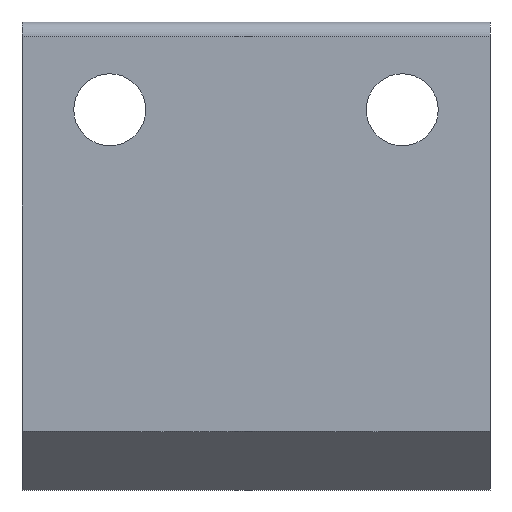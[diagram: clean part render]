
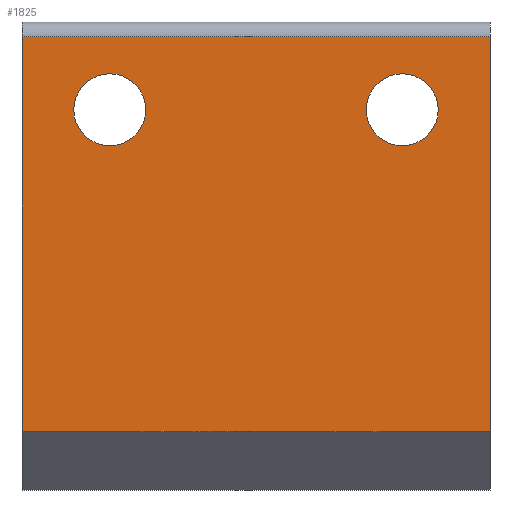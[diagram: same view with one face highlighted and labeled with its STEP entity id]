
A CAD part, front view. The second image highlights one B-rep face of the part: STEP entity #1825.
In plain terms, the highlighted planar face has unit normal (0, -1, 0).
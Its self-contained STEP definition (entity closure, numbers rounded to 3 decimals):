
#1342=CARTESIAN_POINT('',(16.0,-6.,9.5));
#1343=VERTEX_POINT('',#1342);
#1361=CARTESIAN_POINT('',(0.0,-6.,9.5));
#1362=VERTEX_POINT('',#1361);
#1370=CARTESIAN_POINT('',(0.0,-6.,9.5));
#1371=DIRECTION('',(1.0,0.0,0.0));
#1372=VECTOR('',#1371,16.0);
#1373=LINE('',#1370,#1372);
#1374=EDGE_CURVE('',#1362,#1343,#1373,.T.);
#1426=CARTESIAN_POINT('',(0.0,-6.,-4.));
#1427=VERTEX_POINT('',#1426);
#1434=CARTESIAN_POINT('',(0.0,-6.,9.5));
#1435=DIRECTION('',(0.0,0.0,-1.0));
#1436=VECTOR('',#1435,13.5);
#1437=LINE('',#1434,#1436);
#1438=EDGE_CURVE('',#1362,#1427,#1437,.T.);
#1502=CARTESIAN_POINT('',(16.0,-6.,-4.));
#1503=VERTEX_POINT('',#1502);
#1510=CARTESIAN_POINT('',(16.0,-6.,-4.));
#1511=DIRECTION('',(-1.0,0.0,0.0));
#1512=VECTOR('',#1511,16.0);
#1513=LINE('',#1510,#1512);
#1514=EDGE_CURVE('',#1503,#1427,#1513,.T.);
#1649=CARTESIAN_POINT('',(14.23,-6.,7.));
#1650=VERTEX_POINT('',#1649);
#1651=CARTESIAN_POINT('',(13.,-6.,7.));
#1652=DIRECTION('',(0.0,1.0,0.0));
#1653=DIRECTION('',(-1.0,0.0,0.0));
#1654=AXIS2_PLACEMENT_3D('',#1651,#1652,#1653);
#1655=CIRCLE('',#1654,1.23);
#1656=EDGE_CURVE('',#1650,#1650,#1655,.T.);
#1739=CARTESIAN_POINT('',(4.23,-6.,7.));
#1740=VERTEX_POINT('',#1739);
#1741=CARTESIAN_POINT('',(3.,-6.,7.));
#1742=DIRECTION('',(0.0,1.0,0.0));
#1743=DIRECTION('',(-1.0,0.0,0.0));
#1744=AXIS2_PLACEMENT_3D('',#1741,#1742,#1743);
#1745=CIRCLE('',#1744,1.23);
#1746=EDGE_CURVE('',#1740,#1740,#1745,.T.);
#1803=CARTESIAN_POINT('',(0.0,-6.,-6.));
#1804=DIRECTION('',(0.0,-1.0,0.0));
#1805=DIRECTION('',(0.0,0.0,-1.0));
#1806=AXIS2_PLACEMENT_3D('',#1803,#1804,#1805);
#1807=PLANE('',#1806);
#1808=ORIENTED_EDGE('',*,*,#1374,.F.);
#1809=ORIENTED_EDGE('',*,*,#1438,.T.);
#1810=ORIENTED_EDGE('',*,*,#1514,.F.);
#1811=CARTESIAN_POINT('',(16.0,-6.,-4.));
#1812=DIRECTION('',(0.0,0.0,1.0));
#1813=VECTOR('',#1812,13.5);
#1814=LINE('',#1811,#1813);
#1815=EDGE_CURVE('',#1503,#1343,#1814,.T.);
#1816=ORIENTED_EDGE('',*,*,#1815,.T.);
#1817=EDGE_LOOP('',(#1808,#1809,#1810,#1816));
#1818=FACE_OUTER_BOUND('',#1817,.T.);
#1819=ORIENTED_EDGE('',*,*,#1656,.T.);
#1820=EDGE_LOOP('',(#1819));
#1821=FACE_BOUND('',#1820,.T.);
#1822=ORIENTED_EDGE('',*,*,#1746,.T.);
#1823=EDGE_LOOP('',(#1822));
#1824=FACE_BOUND('',#1823,.T.);
#1825=ADVANCED_FACE('',(#1818,#1821,#1824),#1807,.T.);
